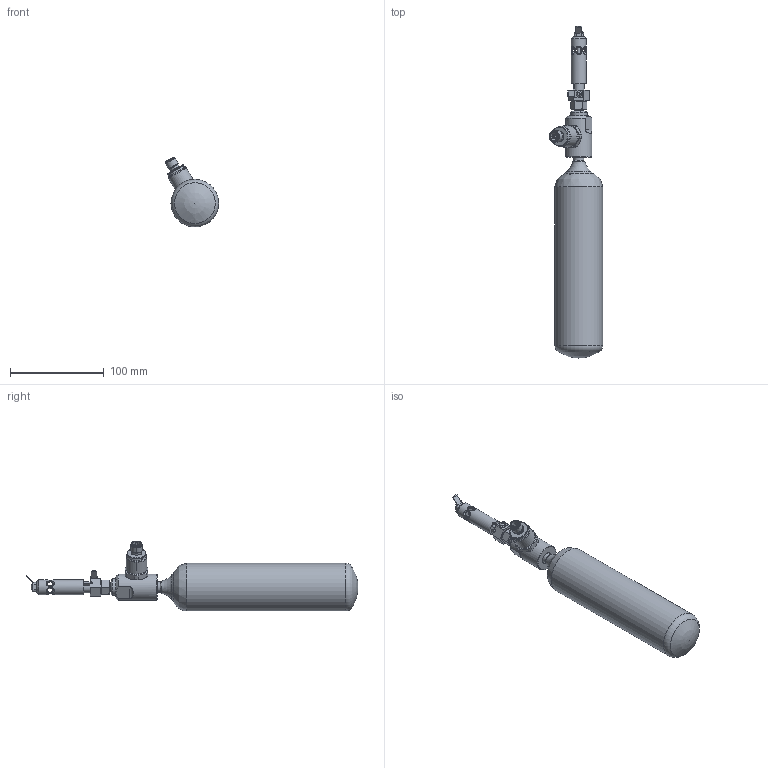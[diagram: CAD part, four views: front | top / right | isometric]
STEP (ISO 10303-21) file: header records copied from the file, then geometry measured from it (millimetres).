
FILE_DESCRIPTION(/* description */ (''),/* implementation_level */ '2;1');
FILE_NAME(/* name */ '40-057-20-32-13 - S-AMFE & R-AMFE - cylinder size 3 and pressure sensor (M12 plug).stp',/* time_stamp */ '2025-03-26T16:21:55+01:00',/* author */ ('ASc'),/* organization */ (''),/* preprocessor_version */ 'ST-DEVELOPER v19.2',/* originating_system */ 'Autodesk Inventor 2023',/* authorisation */ '');
FILE_SCHEMA (('AUTOMOTIVE_DESIGN { 1 0 10303 214 3 1 1 }'));
Length unit declared in the file: millimetre
Products named in the file (1): 40-057-20-32-13_Vereinfachen_1
Bounding box: 56.82 x 353.7 x 74.57 mm (x, y, z)
Volume: 441597.8 mm3; surface area: 48960.9 mm2
Topology: 1 solids, 1 shells, 375 faces, 976 edges, 613 vertices
Faces by surface type: bspline 167, plane 142, cylinder 31, cone 30, torus 5
Full cylindrical faces by diameter (mm): 2.9 x1, 5.7 x2, 6.5 x6, 9.4 x1, 11 x1, 11.9 x1, 12 x1, 12.5 x1, 15 x1, 16 x1, 17.5 x1, 28 x1, 50.8 x1
Entity records: 19828 total; most frequent: CARTESIAN_POINT 10967, ORIENTED_EDGE 1948, DIRECTION 1400, EDGE_CURVE 974, VERTEX_POINT 613, AXIS2_PLACEMENT_3D 504, EDGE_LOOP 405, LINE 392
